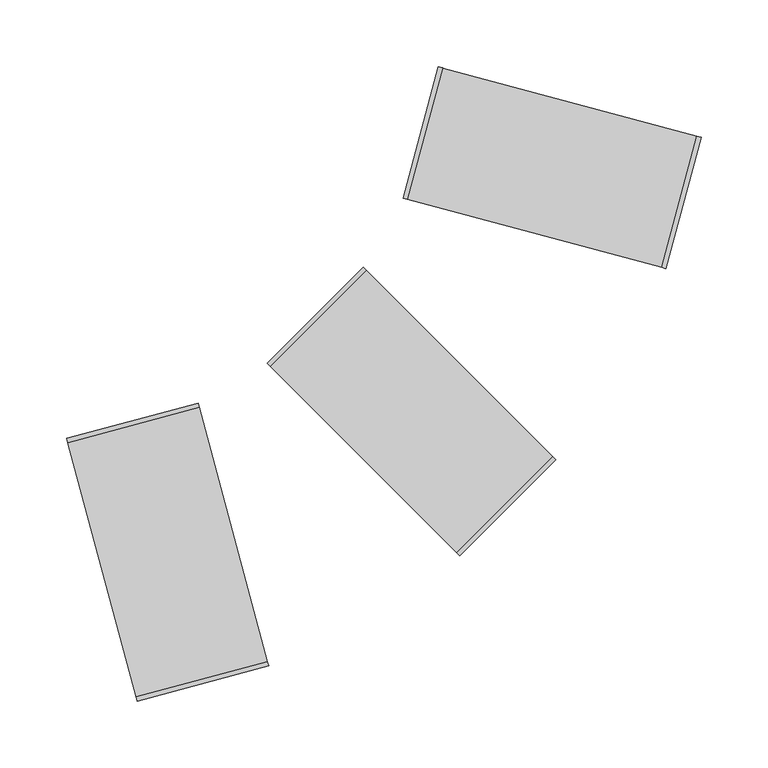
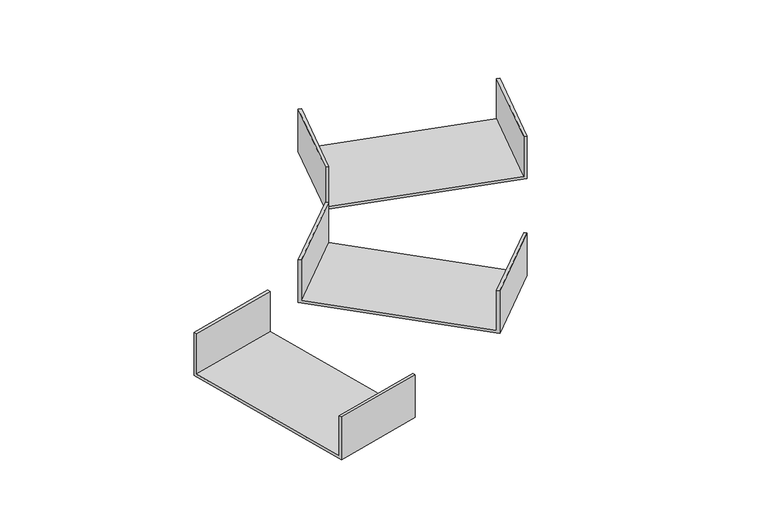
"""IFC4 building model written with IfcOpenShell, lengths in millimetres: cable carrier fitting geometry, Bend-Horizontal-Cablofil-Wire_Mesh_Cable_Tray-Cablobend : Cablobend."""

from ifc_helpers import new_model, si_unit, frame, origin, place, context, project, spatial, polyline, outline, extrude, source, transform, mapped, element, save


def cable_carrier_fitting_1cd74130(model_context):
    return source(origin(), model_context, "Body", "SweptSolid", [
        extrude(outline(polyline([(-50.8, 0.0), (0.0, 0.0), (0.0, -203.2), (-50.8, -203.2), (-50.8, -200.025), (-3.175, -200.025), (-3.175, -3.175), (-50.8, -3.175), (-50.8, 0.0)])), frame((-226.7948776, 154.9528286, -25.4), z_axis=(0.7071067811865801, 0.707106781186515, 0.0), x_axis=(0.0, 0.0, -1.0)), (0.0, 0.0, 1.0), 101.6),
        extrude(outline(polyline([(-50.8, 0.0), (0.0, 0.0), (0.0, -203.2), (-50.8, -203.2), (-50.8, -200.025), (-3.175, -200.025), (-3.175, -3.175), (-50.8, -3.175), (-50.8, 0.0)])), frame((-376.580987, 98.8378007, -25.4), z_axis=(0.9659258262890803, 0.2588190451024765, 0.0), x_axis=(0.0, 0.0, -1.0)), (0.0, 0.0, 1.0), 101.6),
        extrude(outline(polyline([(-50.8, 0.0), (0.0, 0.0), (0.0, -203.2), (-50.8, -203.2), (-50.8, -200.025), (-3.175, -200.025), (-3.175, -3.175), (-50.8, -3.175), (-50.8, 0.0)])), frame((-125.1338156, 278.4429231, -25.4), z_axis=(0.2588190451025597, 0.965925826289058, 0.0), x_axis=(0.0, 0.0, -1.0)), (0.0, 0.0, 1.0), 101.6),
    ])


if __name__ == "__main__":
    model = new_model("IFC4")
    model_context = context("Model", 3, world=origin())
    ifc_project = project(units=[si_unit("LENGTHUNIT", "METRE", prefix="MILLI")], contexts=[model_context])
    site = spatial("IfcSite", under=ifc_project)
    building = spatial("IfcBuilding", under=site)
    placement = place(None, origin())
    cable_carrier_fitting_shape = cable_carrier_fitting_1cd74130(model_context)
    element("IfcCableCarrierFitting", 1, ObjectType="Bend-Horizontal-Cablofil-Wire_Mesh_Cable_Tray-Cablobend : Cablobend", at=placement, inside=building, context=model_context, shape_type="MappedRepresentation", body=[
        mapped(cable_carrier_fitting_shape, transform((0.0, 0.0, 0.0), x_axis=(1.0, 0.0, 0.0), y_axis=(0.0, 1.0, 0.0), z_axis=(0.0, 0.0, 1.0))),
    ])
    save(model, "model.ifc")
